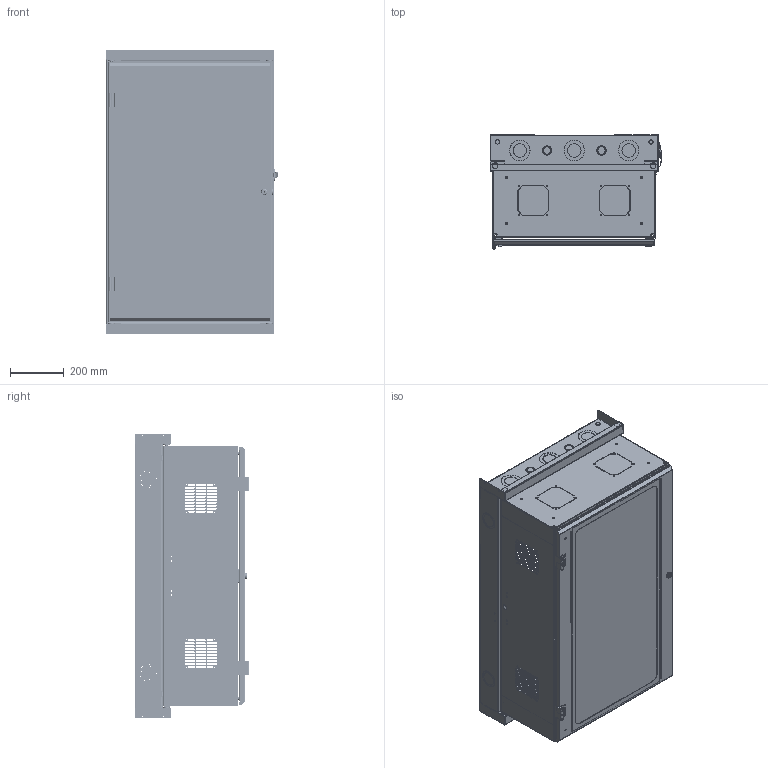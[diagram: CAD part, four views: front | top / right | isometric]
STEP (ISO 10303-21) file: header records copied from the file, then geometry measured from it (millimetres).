
FILE_DESCRIPTION(/* description */ ('Unknown'),/* implementation_level */ '2;1');
FILE_NAME(/* name */ 'HWM2420U11WDBK',/* time_stamp */ '2024-07-29T11:08:09-04:00',/* author */ ('Unknown'),/* organization */ ('Unknown'),/* preprocessor_version */ 'ST-DEVELOPER v18.104',/* originating_system */ 'Solid Edge',/* authorisation */ 'Unknown');
FILE_SCHEMA (('AUTOMOTIVE_DESIGN {1 0 10303 214 3 1 1}'));
Products named in the file (49): HWM2420U11WD; COM57687-4; COM56894-1T; STD21878; COM57684-4; HNG14583; COM54375; COM57382-22; COM57384-2; COM57383-1; BSH87667; COM56897-2; FET07734; STR22105; CCH03747; CCH03748-10deg; CCH03748D; CCH03748B; CCH03748E; CCH03748A; CCH03748C; COM56905; LOC13349; LOC13349B; LOC13349A; COM57690-20U; FET07750; COM56910-2; COM57690-2; std26020; COM57333-42; LOC13410; LOC13410B; HNG14605; HNG14605-1; HNG14604-1A; HNG14604-1B; HNG14605-1C; HNG14604-2; HNG14605-3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
Assembly tree (84 placements, depth 5):
  HWM2420U11WD
    COM57687-4
      COM56894-1T  x2
        STD21878
        COM56894-1T
      COM57684-4  x2
      HNG14583
      COM54375
    COM57382-22
      COM57384-2  x2
      COM57383-1  x2
        STD21878
        COM57383-1
      BSH87667  x4
    COM56897-2  x2
    FET07734  x4
    STR22105
    CCH03747
    CCH03748-10deg
      CCH03748D
      CCH03748B
      CCH03748E
      CCH03748A
      CCH03748C
    COM56905
    LOC13349
      LOC13349B
      LOC13349A
    COM57690-20U
      FET07750  x2
      COM56910-2  x2
      COM57690-2
        COM57690-2
        std26020  x8
      COM57333-42
      LOC13410
        LOC13410B
        LOC13349A
      HNG14605
        HNG14605-1
          HNG14604-1A
          HNG14604-1B
          HNG14605-1C
        HNG14604-2  x2
        HNG14605-3
      HNG14604
        HNG14604-3
        HNG14604-2  x2
        HNG14604-1
          HNG14604-1A
          HNG14604-1B
          HNG14604-1C
      NTS17050  x6
    LAB20204
Bounding box: 641.2 x 426.27 x 1062.02 mm (x, y, z)
Volume: 6130962.3 mm3; surface area: 6729356.9 mm2
Topology: 77 solids, 77 shells, 4142 faces, 11255 edges, 7516 vertices
Faces by surface type: plane 2606, cylinder 1416, bspline 53, cone 46, torus 17, sphere 4
Full cylindrical faces by diameter (mm): 2.54 x2, 3.048 x2, 3.175 x46, 3.454 x4, 3.962 x8, 3.967 x6, 4.039 x8, 4.297 x2, 4.496 x120, 4.775 x26, 4.978 x1, 5.334 x6, 5.461 x2, 5.537 x8, 6 x4, 6.02 x2, 6.1 x2, 6.2 x8, 6.35 x22, 7.137 x8, 7.938 x12, 8.992 x2, 9.246 x4, 9.95 x8, 10 x2, 10.312 x12, 11.125 x2, 11.684 x2, 12.7 x12, 13.005 x1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
Entity records: 74983 total; most frequent: CARTESIAN_POINT 15570, DIRECTION 11924, ORIENTED_EDGE 11714, EDGE_CURVE 5857, AXIS2_PLACEMENT_3D 4061, VERTEX_POINT 4000, LINE 3802, VECTOR 3802
